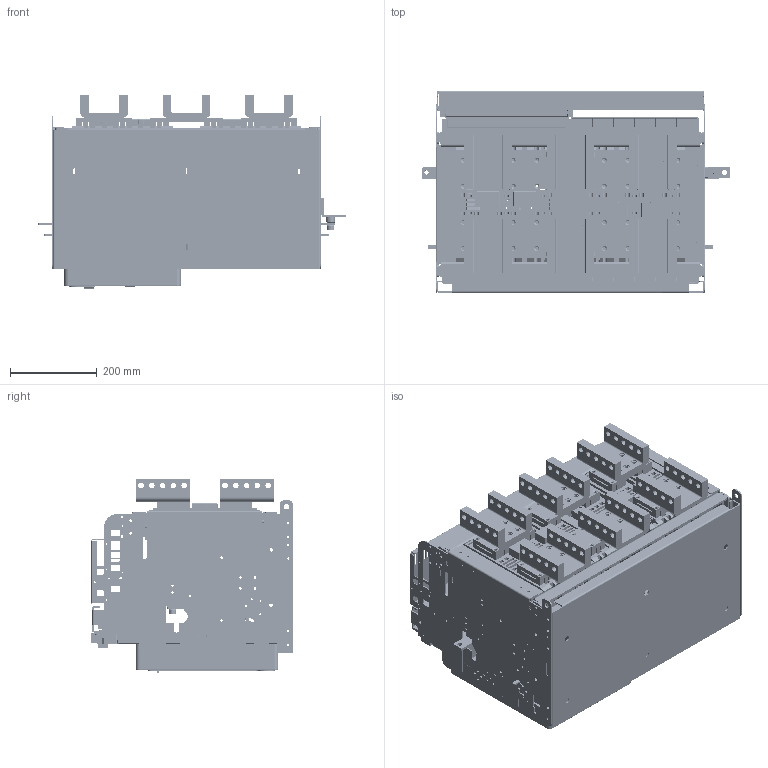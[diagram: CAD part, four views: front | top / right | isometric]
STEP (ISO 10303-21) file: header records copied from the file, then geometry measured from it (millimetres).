
FILE_DESCRIPTION((''),'2;1');
FILE_NAME('HG_20_C503V_ASM_ASM','2019-03-27T',('HHI'),(''),'PRO/ENGINEER BY PARAMETRIC TECHNOLOGY CORPORATION, 2012453','PRO/ENGINEER BY PARAMETRIC TECHNOLOGY CORPORATION, 2012453','');
FILE_SCHEMA(('CONFIG_CONTROL_DESIGN'));
Products named in the file (58): PRT0304; PRT0305; PRT0306; MAIN_SC-DR-FRAME_L_48_ASM_ASM; ASM_U_DR_SIDE_L_ASM_6_ASM_ASM; PRT0307; PRT0308; MAIN_SC-DR-FRAME_R_47_ASM_ASM; ASM_U_DR_SIDE_R_ASM_5_ASM_ASM; PRT0309; PRT0310; ASM0079_ASM; PRT0311; PRT0312; ASM0081_ASM; PRT0313; PRT0314; PRT0315; ASM0080_ASM; PRT0316; SUPPORTER_TERMINAL_MOLD_WELD_4; ASM0082_ASM; PRT0317; PRT0318; PRT0319; PRT0320; PRT0321; ASM0083_ASM; U_JOINT_TERMINAL_50V_2; PRT0322; PRT0324; PRT0325; PRT0326; PRT0327; DR_COVER_SAMPLE_ASM_33_ASM_ASM; PRT0328; PRT0329; PRT0330; OCR_COVER_SAMPLE_ASM_33_ASM_ASM; PRT0333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
Assembly tree (122 placements, depth 7):
  HG_20_C503V_ASM_ASM
    C503V_ASM_ASM_ASM
      C503V_ASM_5_ASM_ASM
        PRT0304
        ASM_U_DR_SIDE_L_ASM_6_ASM_ASM
          PRT0305
          MAIN_SC-DR-FRAME_L_48_ASM_ASM
            PRT0306
        ASM_U_DR_SIDE_R_ASM_5_ASM_ASM
          MAIN_SC-DR-FRAME_R_47_ASM_ASM
            PRT0307
            PRT0308
        ASM0079_ASM
          PRT0309
          PRT0310  x4
        ASM0080_ASM
          ASM0081_ASM  x2
            PRT0311
            PRT0312
          PRT0313  x24
          PRT0314  x4
          PRT0315  x2
        ASM0082_ASM
          PRT0316
          SUPPORTER_TERMINAL_MOLD_WELD_4  x2
        PRT0317
        ASM0083_ASM
          PRT0318
          PRT0319
          PRT0320  x2
          PRT0321
        U_JOINT_TERMINAL_50V_2  x6
        COVER503_ASSY_ASM_3_ASM_ASM
          COVER203_ASSY_ASM_36_ASM_ASM
            PRT0322
            DR_COVER_SAMPLE_ASM_33_ASM_ASM
              PRT0324
              PRT0325
              PRT0326
              PRT0327
            OCR_COVER_SAMPLE_ASM_33_ASM_ASM
              PRT0328
              PRT0329
              PRT0330
            PRT0333
          PRT0334
        PRT0335
        FIX_BODY_ASM_L_ASM_4_ASM_ASM
          PRT0336
          PRT0337
          PRT0338
          PRT0339
        FIX_BODY_ASM_R_ASM_7_ASM_ASM
          PRT0340
          PRT0341
    HG_FRONT_COVER_20
    4AT-06477S03
    4AT-06477S04
Bounding box: 710.7 x 466.35 x 448.03 mm (x, y, z)
Volume: 10563632.8 mm3; surface area: 5269786.3 mm2
Topology: 133 solids, 150 shells, 18213 faces, 53229 edges, 34962 vertices
Faces by surface type: plane 13145, cylinder 4039, cone 375, torus 257, extrusion 175, sphere 167, bspline 55
Entity records: 498049 total; most frequent: CARTESIAN_POINT 93898, ORIENTED_EDGE 86948, DIRECTION 79657, EDGE_CURVE 43605, VECTOR 35955, LINE 35780, VERTEX_POINT 28705, AXIS2_PLACEMENT_3D 21851
